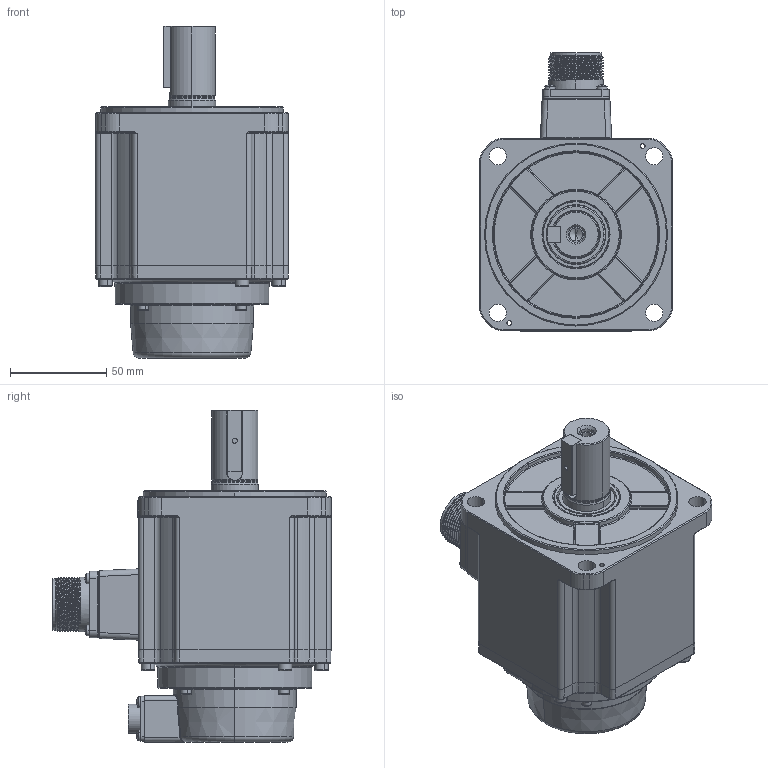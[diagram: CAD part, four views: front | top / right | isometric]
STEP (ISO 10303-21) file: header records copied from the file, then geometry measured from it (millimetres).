
FILE_DESCRIPTION (( 'STEP AP214' ), '1' );
FILE_NAME ('RSK1-S-100-1kw.STEP', '2024-08-22T06:48:19', ( '' ), ( '' ), 'SwSTEP 2.0', 'SolidWorks 2020', '' );
FILE_SCHEMA (( 'AUTOMOTIVE_DESIGN' ));
Length unit declared in the file: millimetre
Products named in the file (14): RSK1-S-100-1kw; 坋趼羞攫芛蹟隊_M3x30; 雄薯瑤脣; 130梓袧綴裔; ﾊｮﾗﾖｲﾛﾅﾌﾍｷﾗﾔｼｷﾂﾝｶ､_M3x8; 内六角圆柱头螺钉_M4x16; 100-S-1kw儂褲; 内六角圆柱头和平垫圈组合螺钉_M3x16; す瑩_B8x7x32; 蚐猾_TC25x35x5; 4140000005_电机内部编码器线_7x26AWG(0.1m-CMV1-10芯螺纹插座_GACJ3045); 100-S-24粣噤; 130雄薯瑤脣價釱; 100-梓袧綴傷裔
Assembly tree (25 placements, depth 2):
  RSK1-S-100-1kw
    100-S-1kw儂褲
    100-梓袧綴傷裔
    坋趼羞攫芛蹟隊_M3x30  x4
    130雄薯瑤脣價釱
    雄薯瑤脣
    内六角圆柱头螺钉_M4x16  x4
    130梓袧綴裔
    4140000005_电机内部编码器线_7x26AWG(0.1m-CMV1-10芯螺纹插座_GACJ3045)
    ﾊｮﾗﾖｲﾛﾅﾌﾍｷﾗﾔｼｷﾂﾝｶ､_M3x8  x4
    内六角圆柱头和平垫圈组合螺钉_M3x16  x4
    100-S-24粣噤
    す瑩_B8x7x32
    蚐猾_TC25x35x5
Bounding box: 100 x 144.4 x 172.4 mm (x, y, z)
Volume: 983538.3 mm3; surface area: 135149.9 mm2
Topology: 35 solids, 35 shells, 2542 faces, 6328 edges, 3941 vertices
Faces by surface type: plane 1233, cylinder 653, cone 290, torus 174, bspline 132, sphere 60
Entity records: 92903 total; most frequent: CARTESIAN_POINT 24171, DIRECTION 10968, ORIENTED_EDGE 10960, EDGE_CURVE 5480, AXIS2_PLACEMENT_3D 3836, VERTEX_POINT 3455, LINE 3296, VECTOR 3296
